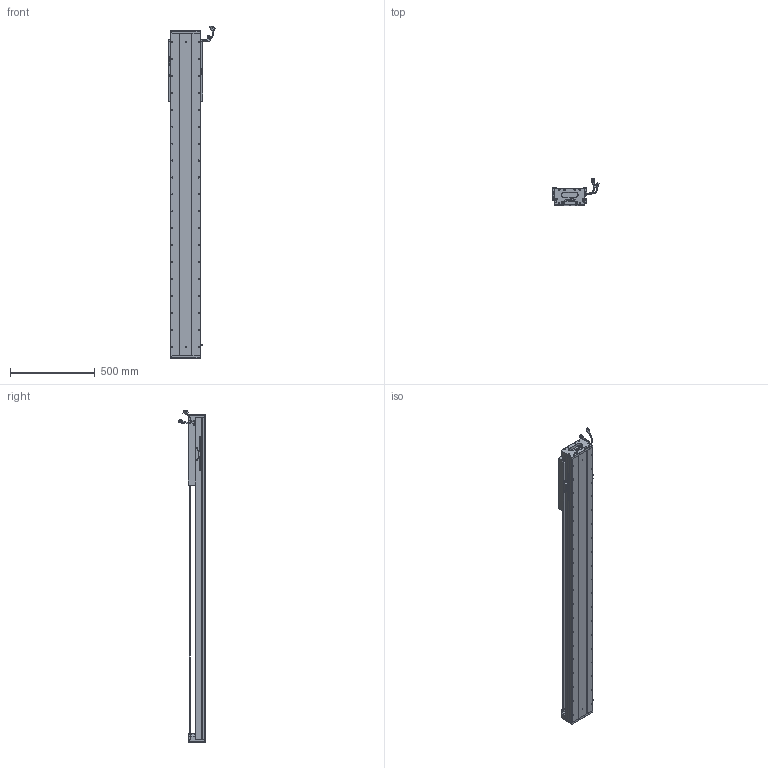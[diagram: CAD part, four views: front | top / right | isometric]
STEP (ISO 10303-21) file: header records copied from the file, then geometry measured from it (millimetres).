
FILE_DESCRIPTION (( 'STEP AP203' ), '1' );
FILE_NAME ('Z5-RY170D-1-L500-B-K.SLDASM_1450.step', '2021-05-18T00:40:54', ( '盈信电脑' ), ( '东莞市道滘镇水果街19号' ), 'SwSTEP 2.0', 'SolidWorks 2016', '' );
FILE_SCHEMA (( 'CONFIG_CONTROL_DESIGN' ));
Length unit declared in the file: millimetre
Products named in the file (36): COVER; Z5-RY170D-1-L500-B-K.SLDASM_1450; PSLH080_PSLF2; SCREW-M1.6-1; 170-Z-臏賑輸盄裔(21遴); HARNESS; 140雄赽晤鎢ん堤盄; SHIELDPLATE; SCREW-M1.7-1; 榋妏寠巭燃_暯_M2_2; SCREW-M1.6-3; HARNESS-Part-2; Z5-RY170-L500耀郪菁釱_1450; SCALE; SCALE-Part-1; SEAL-Part-1; 140蚥薯蝶輸; SCALE-Part-2; Z5-RY170-L500詩湍145mm遵_1450; HOLDER0; Z5-RY170臏賑輸(21遴); SCREW-M1.7; Z-RY170詩湍狟揤裔; COVER-Part-1; 覜茼ん672; SCREW-M1.6-2; LABEL-Part-1; 080黍杅芛假蚾釱21遴; SEAL; Z-170詩湍傷裔啣; SCREW-M1.6; Z-RY170詩湍奻揤裔; LABEL; RY170直线电机感应器672光电感应片; HARNESS-Part-1; PBU_SHEET
Assembly tree (41 placements, depth 4):
  Z5-RY170D-1-L500-B-K.SLDASM_1450
    Z5-RY170-L500耀郪菁釱_1450
    RY170直线电机感应器672光电感应片
    Z5-RY170臏賑輸(21遴)
    覜茼ん672  x3
    PSLH080_PSLF2
      SCALE
        SCALE-Part-1
        SCALE-Part-2
      HARNESS
        HARNESS-Part-1
        HARNESS-Part-2
      LABEL
        LABEL-Part-1
      COVER
        COVER-Part-1
      SEAL
        SEAL-Part-1
      榋妏寠巭燃_暯_M2_2
      SHIELDPLATE
      SCREW-M1.7
      SCREW-M1.7-1
      PBU_SHEET
      SCREW-M1.6
      SCREW-M1.6-1
      SCREW-M1.6-2
      SCREW-M1.6-3
      HOLDER0
    080黍杅芛假蚾釱21遴
    Z5-RY170-L500詩湍145mm遵_1450
    Z-170詩湍傷裔啣  x2
    Z-RY170詩湍奻揤裔  x2
    Z-RY170詩湍狟揤裔  x2
    140蚥薯蝶輸  x2
    170-Z-臏賑輸盄裔(21遴)
    140雄赽晤鎢ん堤盄
Bounding box: 275.34 x 158.11 x 1958.72 mm (x, y, z)
Volume: 10738119.1 mm3; surface area: 2562847.1 mm2
Topology: 36 solids, 36 shells, 3722 faces, 10175 edges, 6375 vertices
Faces by surface type: cylinder 1826, plane 1270, cone 504, torus 69, bspline 53
Entity records: 114363 total; most frequent: CARTESIAN_POINT 30722, ORIENTED_EDGE 16962, DIRECTION 16213, EDGE_CURVE 8481, AXIS2_PLACEMENT_3D 5988, VERTEX_POINT 5493, VECTOR 4237, LINE 4237
